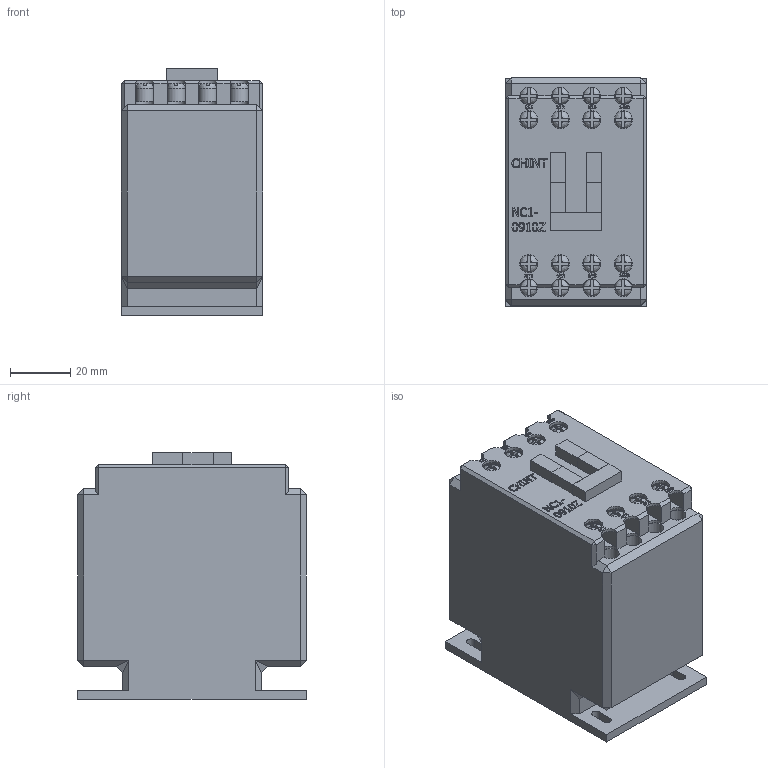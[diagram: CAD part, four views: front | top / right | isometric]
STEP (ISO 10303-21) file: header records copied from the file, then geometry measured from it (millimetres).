
FILE_DESCRIPTION(/* description */ (''),/* implementation_level */ '2;1');
FILE_NAME(/* name */ 'D:\CHINT2\NC1\NC1-0901Z 230В 50.stp',/* time_stamp */ '2017-11-12T20:07:39+03:00',/* author */ ('RSagdiev'),/* organization */ (''),/* preprocessor_version */ 'ST-DEVELOPER v16.5',/* originating_system */ 'Autodesk Inventor 2017',/* authorisation */ '');
FILE_SCHEMA (('AUTOMOTIVE_DESIGN { 1 0 10303 214 3 1 1 }'));
Length unit declared in the file: millimetre
Products named in the file (1): NC1-0901 230В 50
Bounding box: 47 x 76 x 82 mm (x, y, z)
Volume: 258522.2 mm3; surface area: 33762.5 mm2
Topology: 19 solids, 19 shells, 1071 faces, 2813 edges, 1838 vertices
Faces by surface type: plane 775, bspline 248, cylinder 48
Full cylindrical faces by diameter (mm): 5.8 x8, 6 x16
Entity records: 35479 total; most frequent: CARTESIAN_POINT 10732, ORIENTED_EDGE 5578, DIRECTION 4129, EDGE_CURVE 2789, LINE 1893, VECTOR 1893, VERTEX_POINT 1838, EDGE_LOOP 1177
